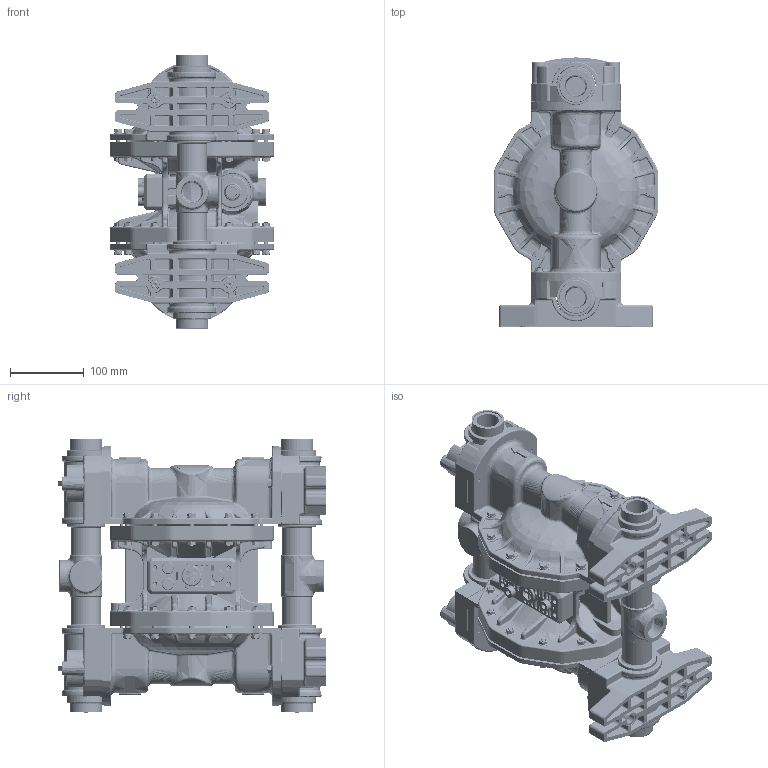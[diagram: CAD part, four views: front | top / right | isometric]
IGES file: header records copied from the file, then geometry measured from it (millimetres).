
Start section: SolidWorks IGES file using analytic representation for surfaces
Global section: file name: C:\Users\tecnico\Desktop\STEP\P 160 Assieme Alluminio.IGS; native system: SolidWorks 2016; preprocessor: SolidWorks 2016; author: tecnico; date: 170317.093341; units: millimetre
Bounding box: 222.16 x 364.1 x 370 mm (x, y, z)
Volume: 1893337.5 mm3; surface area: 1474425.8 mm2
Topology: 80 solids, 128 shells, 18684 faces, 72427 edges, 57062 vertices
Faces by surface type: revolution 8968, bspline 5920, plane 3796
